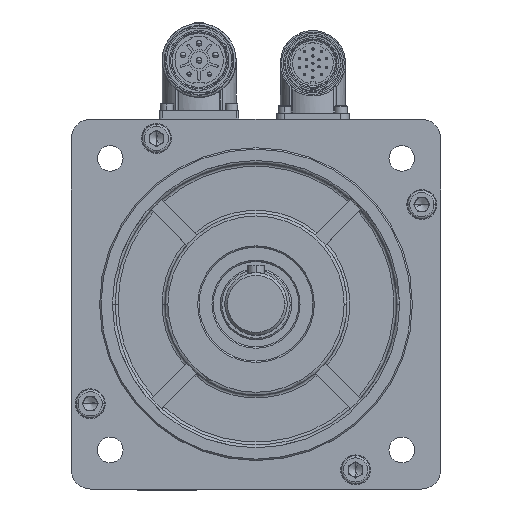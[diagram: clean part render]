
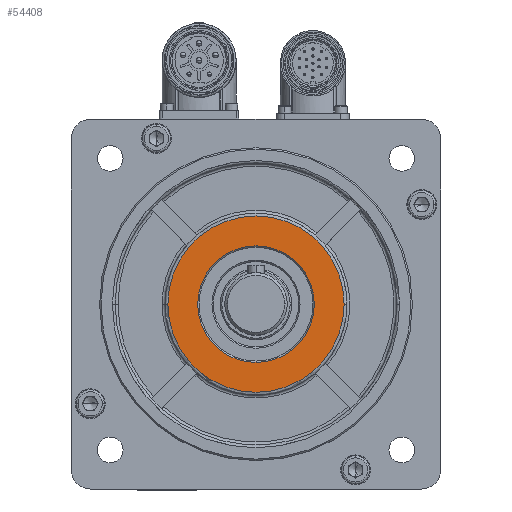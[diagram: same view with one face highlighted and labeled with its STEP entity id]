
A CAD part, top view. The second image highlights one B-rep face of the part: STEP entity #54408.
In plain terms, the highlighted planar face has unit normal (0, 0, 1).
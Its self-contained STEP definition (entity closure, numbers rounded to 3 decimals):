
#1631 = DIRECTION ( 'NONE',  ( -1., 0., 0. ) ) ;
#5341 = VERTEX_POINT ( 'NONE', #42953 ) ;
#7008 = DIRECTION ( 'NONE',  ( 0., 0., 1. ) ) ;
#7665 = CARTESIAN_POINT ( 'NONE',  ( 20.5, 0., 30.5 ) ) ;
#8170 = FACE_OUTER_BOUND ( 'NONE', #10123, .T. ) ;
#9433 = AXIS2_PLACEMENT_3D ( 'NONE', #35539, #30665, #1631 ) ;
#10123 = EDGE_LOOP ( 'NONE', ( #38761, #62238 ) ) ;
#10730 = AXIS2_PLACEMENT_3D ( 'NONE', #14226, #52573, #47686 ) ;
#14226 = CARTESIAN_POINT ( 'NONE',  ( -58.113, -58.113, 30.5 ) ) ;
#14443 = VERTEX_POINT ( 'NONE', #28006 ) ;
#22592 = DIRECTION ( 'NONE',  ( -1., 0., 0. ) ) ;
#24027 = AXIS2_PLACEMENT_3D ( 'NONE', #40906, #7008, #54871 ) ;
#24974 = VERTEX_POINT ( 'NONE', #7665 ) ;
#27323 = ORIENTED_EDGE ( 'NONE', *, *, #32414, .T. ) ;
#28006 = CARTESIAN_POINT ( 'NONE',  ( -31., 0., 30.5 ) ) ;
#29410 = DIRECTION ( 'NONE',  ( -1., 0., 0. ) ) ;
#29604 = CIRCLE ( 'NONE', #31771, 20.5 ) ;
#30665 = DIRECTION ( 'NONE',  ( 0., 0., 1. ) ) ;
#31771 = AXIS2_PLACEMENT_3D ( 'NONE', #44411, #54351, #29410 ) ;
#32414 = EDGE_CURVE ( 'NONE', #24974, #62275, #29604, .T. ) ;
#35539 = CARTESIAN_POINT ( 'NONE',  ( 0., 0., 30.5 ) ) ;
#38761 = ORIENTED_EDGE ( 'NONE', *, *, #58805, .T. ) ;
#40906 = CARTESIAN_POINT ( 'NONE',  ( 0., 0., 30.5 ) ) ;
#41471 = ORIENTED_EDGE ( 'NONE', *, *, #42844, .T. ) ;
#42121 = CARTESIAN_POINT ( 'NONE',  ( -20.5, 0., 30.5 ) ) ;
#42844 = EDGE_CURVE ( 'NONE', #62275, #24974, #57631, .T. ) ;
#42883 = EDGE_LOOP ( 'NONE', ( #27323, #41471 ) ) ;
#42953 = CARTESIAN_POINT ( 'NONE',  ( 31., 0., 30.5 ) ) ;
#44411 = CARTESIAN_POINT ( 'NONE',  ( 0., 0., 30.5 ) ) ;
#46131 = DIRECTION ( 'NONE',  ( 0., 0., -1. ) ) ;
#47562 = CIRCLE ( 'NONE', #24027, 31. ) ;
#47686 = DIRECTION ( 'NONE',  ( -1., 0., 0. ) ) ;
#52573 = DIRECTION ( 'NONE',  ( 0., 0., -1. ) ) ;
#54351 = DIRECTION ( 'NONE',  ( 0., 0., -1. ) ) ;
#54408 = ADVANCED_FACE ( 'NONE', ( #8170, #58187 ), #58248, .F. ) ;
#54871 = DIRECTION ( 'NONE',  ( -1., 0., 0. ) ) ;
#55443 = AXIS2_PLACEMENT_3D ( 'NONE', #57826, #46131, #22592 ) ;
#57631 = CIRCLE ( 'NONE', #55443, 20.5 ) ;
#57826 = CARTESIAN_POINT ( 'NONE',  ( 0., 0., 30.5 ) ) ;
#58005 = EDGE_CURVE ( 'NONE', #5341, #14443, #47562, .T. ) ;
#58187 = FACE_BOUND ( 'NONE', #42883, .T. ) ;
#58248 = PLANE ( 'NONE',  #10730 ) ;
#58805 = EDGE_CURVE ( 'NONE', #14443, #5341, #58952, .T. ) ;
#58952 = CIRCLE ( 'NONE', #9433, 31. ) ;
#62238 = ORIENTED_EDGE ( 'NONE', *, *, #58005, .T. ) ;
#62275 = VERTEX_POINT ( 'NONE', #42121 ) ;
